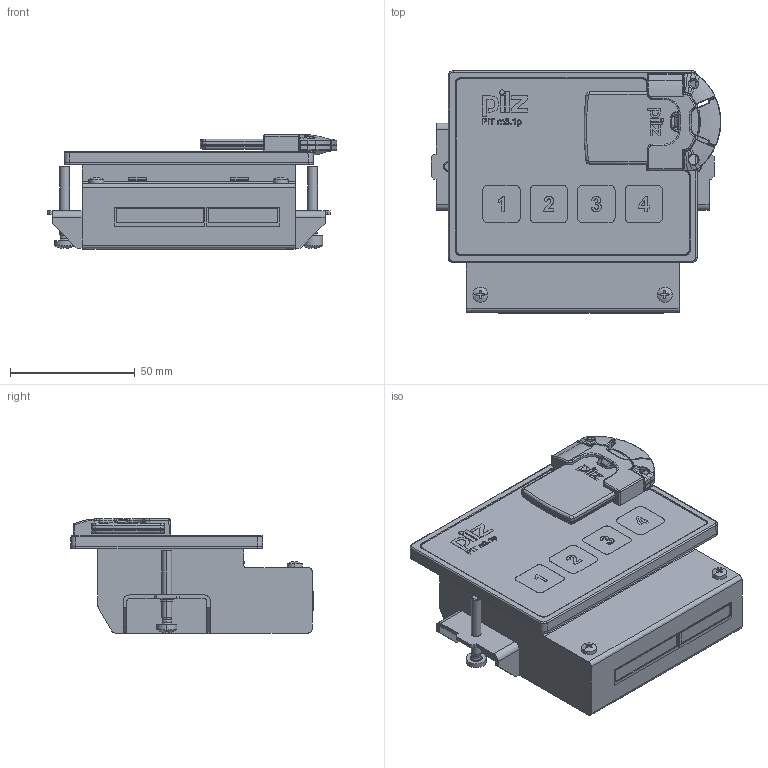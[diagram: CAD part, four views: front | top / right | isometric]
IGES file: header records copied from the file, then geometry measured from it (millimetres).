
Start section:  PTC IGES file: 2008208
Global section: file name: 2008208; native system: Pro/ENGINEER by Parametric Technology Corporation; preprocessor: 2009380; author: merz; organization: Unknown; date: 20110209.100336; units: millimetre
Bounding box: 116.33 x 97.3 x 45.8 mm (x, y, z)
Surface area: 55516.2 mm2 (no closed solid volume)
Topology: 0 solids, 0 shells, 1830 faces, 9632 edges, 9632 vertices
Faces by surface type: bspline 1231, revolution 470, extrusion 129
